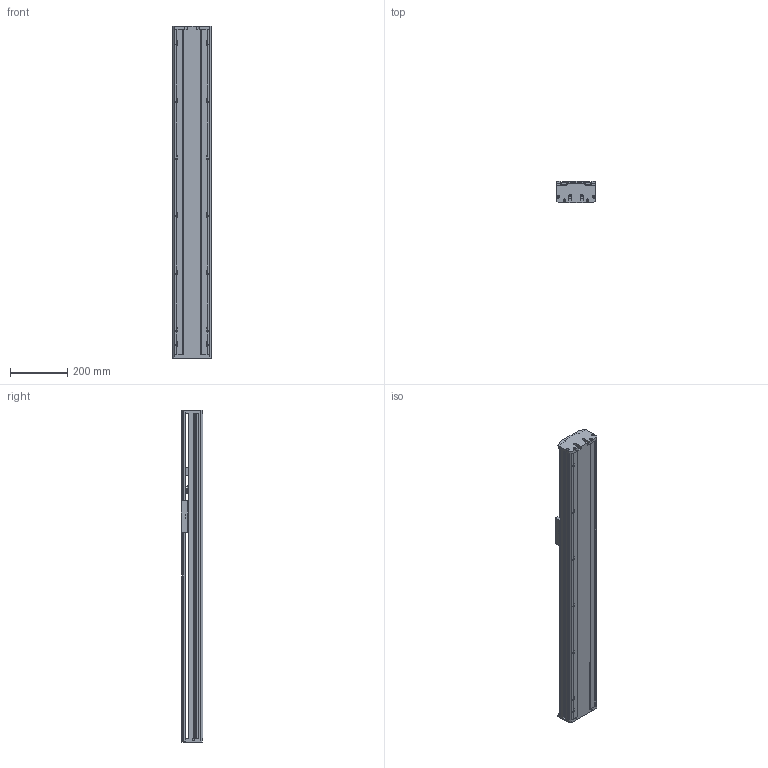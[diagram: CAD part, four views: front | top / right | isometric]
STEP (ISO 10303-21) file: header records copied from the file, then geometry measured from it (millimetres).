
FILE_DESCRIPTION(/* description */ (''),/* implementation_level */ '2;1');
FILE_NAME(/* name */ 'TKA136-FI-700_asm1.stp',/* time_stamp */ '2016-05-07T10:40:10+08:00',/* author */ (''),/* organization */ (''),/* preprocessor_version */ 'ST-DEVELOPER v15',/* originating_system */ 'SIEMENS PLM Software NX 8.5',/* authorisation */ '');
FILE_SCHEMA (('AUTOMOTIVE_DESIGN { 1 0 10303 214 3 1 1 1 }'));
Length unit declared in the file: millimetre
Products named in the file (3): 100-02; 100-01; TKA136-FI-700_asm1
Assembly tree (2 placements, depth 2):
  TKA136-FI-700_asm1
    100-01
    100-02
Bounding box: 136 x 75 x 1159 mm (x, y, z)
Volume: 3574793.1 mm3; surface area: 1344595.2 mm2
Topology: 2 solids, 12 shells, 973 faces, 2828 edges, 1855 vertices
Faces by surface type: cylinder 485, plane 438, cone 50
Full cylindrical faces by diameter (mm): 2.5 x4, 3.3 x8, 4.2 x8, 4.5 x20, 5 x12, 5.5 x14, 8 x20, 10 x9, 10.5 x8, 11.6 x1, 12 x8, 15 x3, 16 x5, 24 x3, 26 x1, 28 x1, 46 x1
Entity records: 34319 total; most frequent: CARTESIAN_POINT 9049, ORIENTED_EDGE 5212, DIRECTION 5156, EDGE_CURVE 2606, AXIS2_PLACEMENT_3D 1916, VERTEX_POINT 1807, LINE 1324, VECTOR 1324
